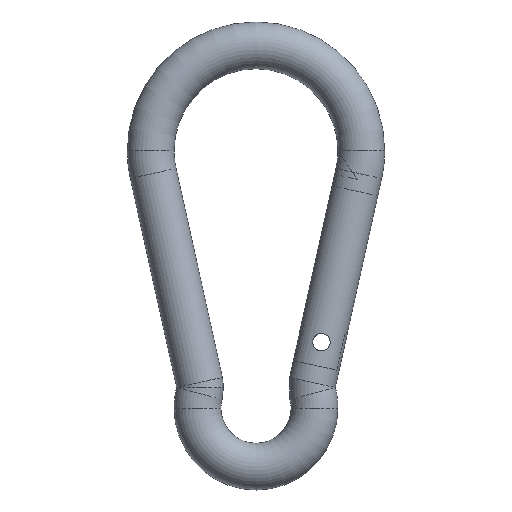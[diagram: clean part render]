
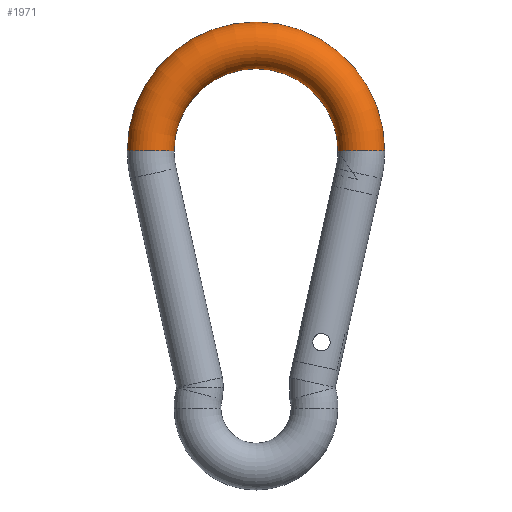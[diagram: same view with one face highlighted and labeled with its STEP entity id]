
A CAD part, top view. The second image highlights one B-rep face of the part: STEP entity #1971.
In plain terms, the highlighted toroidal (fillet/blend) face has major radius 9 mm and minor radius 2 mm.
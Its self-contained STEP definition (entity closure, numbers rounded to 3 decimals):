
#1 = AXIS2_PLACEMENT_3D ( 'NONE', #1509, #1688, #2065 ) ;
#21 = DIRECTION ( 'NONE',  ( -1., 0., 0. ) ) ;
#25 = CARTESIAN_POINT ( 'NONE',  ( 11., 22., 0. ) ) ;
#136 = VERTEX_POINT ( 'NONE', #351 ) ;
#151 = ORIENTED_EDGE ( 'NONE', *, *, #557, .T. ) ;
#172 = ORIENTED_EDGE ( 'NONE', *, *, #506, .T. ) ;
#183 = FACE_OUTER_BOUND ( 'NONE', #1224, .T. ) ;
#240 = CARTESIAN_POINT ( 'NONE',  ( -11., 22., 0. ) ) ;
#351 = CARTESIAN_POINT ( 'NONE',  ( 7., 22., 0. ) ) ;
#435 = CARTESIAN_POINT ( 'NONE',  ( -9., 22., 0. ) ) ;
#506 = EDGE_CURVE ( 'NONE', #981, #136, #611, .T. ) ;
#542 = ORIENTED_EDGE ( 'NONE', *, *, #1574, .F. ) ;
#557 = EDGE_CURVE ( 'NONE', #136, #1365, #1055, .T. ) ;
#611 = CIRCLE ( 'NONE', #2039, 7. ) ;
#888 = DIRECTION ( 'NONE',  ( -1., 0., 0. ) ) ;
#981 = VERTEX_POINT ( 'NONE', #1262 ) ;
#1055 = CIRCLE ( 'NONE', #1, 2. ) ;
#1081 = CIRCLE ( 'NONE', #1882, 2. ) ;
#1164 = DIRECTION ( 'NONE',  ( 0., 0., -1. ) ) ;
#1224 = EDGE_LOOP ( 'NONE', ( #542, #1496, #172, #151 ) ) ;
#1262 = CARTESIAN_POINT ( 'NONE',  ( -7., 22., 0. ) ) ;
#1365 = VERTEX_POINT ( 'NONE', #25 ) ;
#1390 = AXIS2_PLACEMENT_3D ( 'NONE', #1512, #1164, #21 ) ;
#1398 = VERTEX_POINT ( 'NONE', #240 ) ;
#1496 = ORIENTED_EDGE ( 'NONE', *, *, #2322, .F. ) ;
#1509 = CARTESIAN_POINT ( 'NONE',  ( 9., 22., 0. ) ) ;
#1512 = CARTESIAN_POINT ( 'NONE',  ( 0., 22., 0. ) ) ;
#1574 = EDGE_CURVE ( 'NONE', #1398, #1365, #1798, .T. ) ;
#1631 = CARTESIAN_POINT ( 'NONE',  ( 0., 22., 0. ) ) ;
#1688 = DIRECTION ( 'NONE',  ( 0., 1., 0. ) ) ;
#1798 = CIRCLE ( 'NONE', #2375, 11. ) ;
#1850 = DIRECTION ( 'NONE',  ( 0., 0., -1. ) ) ;
#1882 = AXIS2_PLACEMENT_3D ( 'NONE', #435, #1922, #1956 ) ;
#1922 = DIRECTION ( 'NONE',  ( 0., -1., 0. ) ) ;
#1956 = DIRECTION ( 'NONE',  ( 0., 0., -1. ) ) ;
#1971 = ADVANCED_FACE ( 'NONE', ( #183 ), #2361, .T. ) ;
#1992 = DIRECTION ( 'NONE',  ( 0., 0., -1. ) ) ;
#2038 = CARTESIAN_POINT ( 'NONE',  ( 0., 22., 0. ) ) ;
#2039 = AXIS2_PLACEMENT_3D ( 'NONE', #2038, #1850, #2210 ) ;
#2065 = DIRECTION ( 'NONE',  ( -1., 0., 0. ) ) ;
#2210 = DIRECTION ( 'NONE',  ( -1., 0., 0. ) ) ;
#2322 = EDGE_CURVE ( 'NONE', #981, #1398, #1081, .T. ) ;
#2361 = TOROIDAL_SURFACE ( 'NONE', #1390, 9., 2. ) ;
#2375 = AXIS2_PLACEMENT_3D ( 'NONE', #1631, #1992, #888 ) ;
